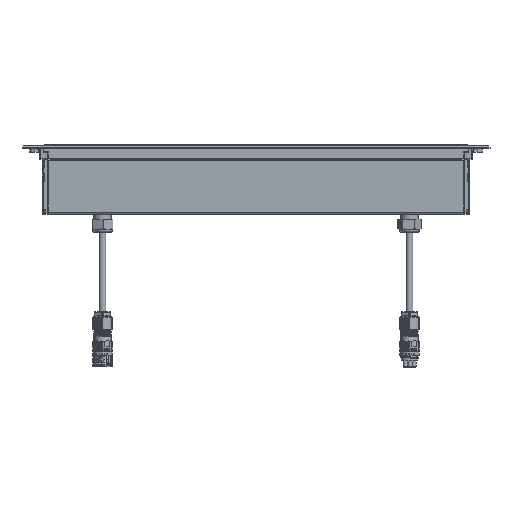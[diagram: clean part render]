
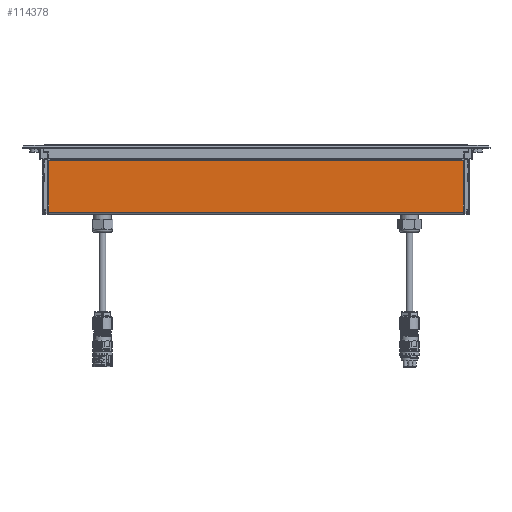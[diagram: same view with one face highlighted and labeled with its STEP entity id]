
A CAD part, left-side view. The second image highlights one B-rep face of the part: STEP entity #114378.
In plain terms, the highlighted planar face has unit normal (-1, 0, 0).
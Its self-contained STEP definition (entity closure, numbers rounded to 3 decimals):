
#4908=CIRCLE('',#119180,0.2);
#4909=CIRCLE('',#119181,0.2);
#11467=ORIENTED_EDGE('',*,*,#37501,.F.);
#11468=ORIENTED_EDGE('',*,*,#37502,.T.);
#11469=ORIENTED_EDGE('',*,*,#37503,.T.);
#11470=ORIENTED_EDGE('',*,*,#37500,.T.);
#11471=ORIENTED_EDGE('',*,*,#37504,.T.);
#11472=ORIENTED_EDGE('',*,*,#37505,.T.);
#11473=ORIENTED_EDGE('',*,*,#37506,.F.);
#11474=ORIENTED_EDGE('',*,*,#37507,.T.);
#11475=ORIENTED_EDGE('',*,*,#37508,.T.);
#11476=ORIENTED_EDGE('',*,*,#37509,.F.);
#11477=ORIENTED_EDGE('',*,*,#37510,.F.);
#11478=ORIENTED_EDGE('',*,*,#37511,.T.);
#11479=ORIENTED_EDGE('',*,*,#37512,.F.);
#11480=ORIENTED_EDGE('',*,*,#37513,.F.);
#11481=ORIENTED_EDGE('',*,*,#37514,.T.);
#11482=ORIENTED_EDGE('',*,*,#37515,.T.);
#37500=EDGE_CURVE('',#50411,#50412,#58898,.T.);
#37501=EDGE_CURVE('',#50413,#50414,#58899,.T.);
#37502=EDGE_CURVE('',#50413,#50415,#58900,.T.);
#37503=EDGE_CURVE('',#50415,#50411,#58901,.T.);
#37504=EDGE_CURVE('',#50412,#50416,#58902,.T.);
#37505=EDGE_CURVE('',#50416,#50417,#58903,.T.);
#37506=EDGE_CURVE('',#50418,#50417,#58904,.T.);
#37507=EDGE_CURVE('',#50418,#50419,#58905,.T.);
#37508=EDGE_CURVE('',#50419,#50420,#58906,.T.);
#37509=EDGE_CURVE('',#50421,#50420,#4908,.T.);
#37510=EDGE_CURVE('',#50422,#50421,#58907,.T.);
#37511=EDGE_CURVE('',#50422,#50423,#58908,.F.);
#37512=EDGE_CURVE('',#50424,#50423,#58909,.T.);
#37513=EDGE_CURVE('',#50425,#50424,#4909,.T.);
#37514=EDGE_CURVE('',#50425,#50426,#58910,.T.);
#37515=EDGE_CURVE('',#50426,#50414,#58911,.T.);
#50411=VERTEX_POINT('',#389089);
#50412=VERTEX_POINT('',#389091);
#50413=VERTEX_POINT('',#389095);
#50414=VERTEX_POINT('',#389096);
#50415=VERTEX_POINT('',#389098);
#50416=VERTEX_POINT('',#389101);
#50417=VERTEX_POINT('',#389103);
#50418=VERTEX_POINT('',#389105);
#50419=VERTEX_POINT('',#389107);
#50420=VERTEX_POINT('',#389109);
#50421=VERTEX_POINT('',#389111);
#50422=VERTEX_POINT('',#389113);
#50423=VERTEX_POINT('',#389115);
#50424=VERTEX_POINT('',#389117);
#50425=VERTEX_POINT('',#389119);
#50426=VERTEX_POINT('',#389121);
#58898=LINE('',#389092,#64871);
#58899=LINE('',#389094,#64872);
#58900=LINE('',#389097,#64873);
#58901=LINE('',#389099,#64874);
#58902=LINE('',#389100,#64875);
#58903=LINE('',#389102,#64876);
#58904=LINE('',#389104,#64877);
#58905=LINE('',#389106,#64878);
#58906=LINE('',#389108,#64879);
#58907=LINE('',#389112,#64880);
#58908=LINE('',#389114,#64881);
#58909=LINE('',#389116,#64882);
#58910=LINE('',#389120,#64883);
#58911=LINE('',#389122,#64884);
#64871=VECTOR('',#128253,1000.);
#64872=VECTOR('',#128256,1000.);
#64873=VECTOR('',#128257,1000.);
#64874=VECTOR('',#128258,1000.);
#64875=VECTOR('',#128259,1000.);
#64876=VECTOR('',#128260,1000.);
#64877=VECTOR('',#128261,1000.);
#64878=VECTOR('',#128262,1000.);
#64879=VECTOR('',#128263,1000.);
#64880=VECTOR('',#128266,1000.);
#64881=VECTOR('',#128267,1000.);
#64882=VECTOR('',#128268,1000.);
#64883=VECTOR('',#128271,1000.);
#64884=VECTOR('',#128272,1000.);
#70279=EDGE_LOOP('',(#11467,#11468,#11469,#11470,#11471,#11472,#11473,#11474,
#11475,#11476,#11477,#11478,#11479,#11480,#11481,#11482));
#75179=FACE_BOUND('',#70279,.T.);
#79891=PLANE('',#119179);
#114378=ADVANCED_FACE('',(#75179),#79891,.F.);
#119179=AXIS2_PLACEMENT_3D('',#389093,#128254,#128255);
#119180=AXIS2_PLACEMENT_3D('',#389110,#128264,#128265);
#119181=AXIS2_PLACEMENT_3D('',#389118,#128269,#128270);
#128253=DIRECTION('',(0.,-1.,0.));
#128254=DIRECTION('',(1.,0.,0.));
#128255=DIRECTION('',(0.,0.,1.));
#128256=DIRECTION('',(0.,0.,1.));
#128257=DIRECTION('',(0.,1.,0.));
#128258=DIRECTION('',(0.,0.,-1.));
#128259=DIRECTION('',(0.,0.,1.));
#128260=DIRECTION('',(0.,1.,0.));
#128261=DIRECTION('',(0.,0.,-1.));
#128262=DIRECTION('',(0.,-1.,0.));
#128263=DIRECTION('',(0.,0.,1.));
#128264=DIRECTION('',(1.,0.,0.));
#128265=DIRECTION('',(0.,0.,-1.));
#128266=DIRECTION('',(0.,0.,-1.));
#128267=DIRECTION('',(0.,-1.,0.));
#128268=DIRECTION('',(0.,0.,1.));
#128269=DIRECTION('',(1.,0.,0.));
#128270=DIRECTION('',(0.,0.,-1.));
#128271=DIRECTION('',(0.,0.,-1.));
#128272=DIRECTION('',(0.,-1.,0.));
#389089=CARTESIAN_POINT('',(-22.5,248.5,-74.6));
#389091=CARTESIAN_POINT('',(-22.5,-249.5,-74.6));
#389092=CARTESIAN_POINT('',(-22.5,254.5,-74.6));
#389093=CARTESIAN_POINT('',(-22.5,254.5,-76.1));
#389094=CARTESIAN_POINT('',(-22.5,248.,-76.1));
#389095=CARTESIAN_POINT('',(-22.5,248.,-68.35));
#389096=CARTESIAN_POINT('',(-22.5,248.,-65.25));
#389097=CARTESIAN_POINT('',(-22.5,254.5,-68.35));
#389098=CARTESIAN_POINT('',(-22.5,248.5,-68.35));
#389099=CARTESIAN_POINT('',(-22.5,248.5,-76.1));
#389100=CARTESIAN_POINT('',(-22.5,-249.5,-76.1));
#389101=CARTESIAN_POINT('',(-22.5,-249.5,-68.35));
#389102=CARTESIAN_POINT('',(-22.5,254.5,-68.35));
#389103=CARTESIAN_POINT('',(-22.5,-249.,-68.35));
#389104=CARTESIAN_POINT('',(-22.5,-249.,-76.1));
#389105=CARTESIAN_POINT('',(-22.5,-249.,-65.25));
#389106=CARTESIAN_POINT('',(-22.5,254.5,-65.25));
#389107=CARTESIAN_POINT('',(-22.5,-249.5,-65.25));
#389108=CARTESIAN_POINT('',(-22.5,-249.5,-76.1));
#389109=CARTESIAN_POINT('',(-22.5,-249.5,-12.85));
#389110=CARTESIAN_POINT('',(-22.5,-249.3,-12.85));
#389111=CARTESIAN_POINT('',(-22.5,-249.49,-12.788));
#389112=CARTESIAN_POINT('',(-22.5,-249.49,-76.1));
#389113=CARTESIAN_POINT('',(-22.5,-249.49,-12.136));
#389114=CARTESIAN_POINT('',(-22.5,254.5,-12.136));
#389115=CARTESIAN_POINT('',(-22.5,248.49,-12.136));
#389116=CARTESIAN_POINT('',(-22.5,248.49,-76.1));
#389117=CARTESIAN_POINT('',(-22.5,248.49,-12.788));
#389118=CARTESIAN_POINT('',(-22.5,248.3,-12.85));
#389119=CARTESIAN_POINT('',(-22.5,248.5,-12.85));
#389120=CARTESIAN_POINT('',(-22.5,248.5,-76.1));
#389121=CARTESIAN_POINT('',(-22.5,248.5,-65.25));
#389122=CARTESIAN_POINT('',(-22.5,254.5,-65.25));
